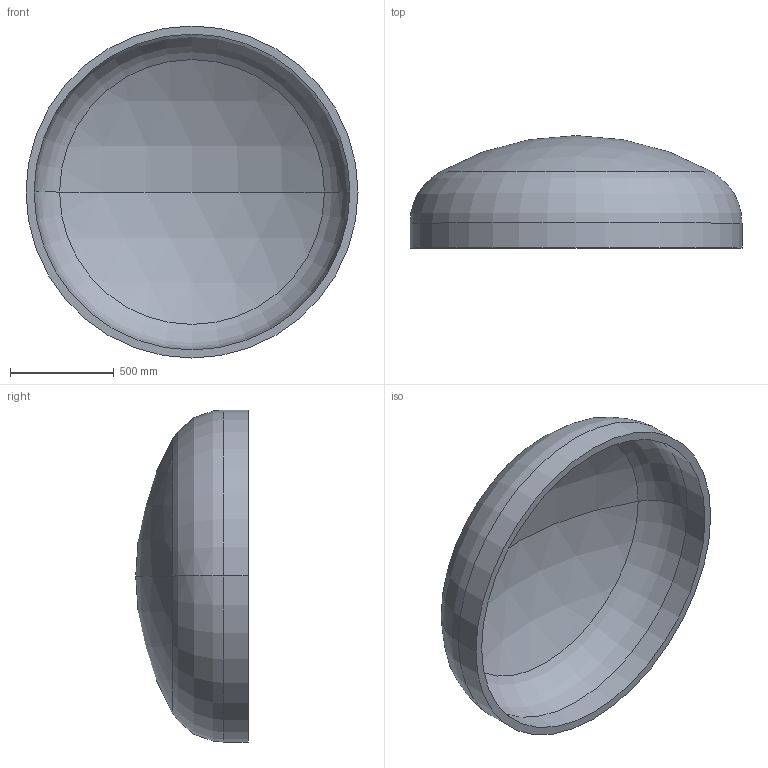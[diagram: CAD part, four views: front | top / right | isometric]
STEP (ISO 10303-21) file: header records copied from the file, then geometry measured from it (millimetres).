
FILE_DESCRIPTION (( 'STEP AP203' ), '1' );
FILE_NAME ('DIN 28013 Korbbogenform_-_Boden DIN 28013 - 1600 x 120 - I - s=39.step', '2016-07-01T11:15:16', ( '' ), ( '' ), 'SwSTEP 2.0', 'SolidWorks 2013', '' );
FILE_SCHEMA (( 'CONFIG_CONTROL_DESIGN' ));
Length unit declared in the file: millimetre
Products named in the file (1): DIN 28013 Korbbogenform_-_Boden DIN 28013 - 1600 x 120 - I - s=39
Bounding box: 1600 x 541.8 x 1600 mm (x, y, z)
Volume: 128015243.5 mm3; surface area: 6759324.9 mm2
Topology: 1 solids, 1 shells, 13 faces, 24 edges, 14 vertices
Faces by surface type: torus 4, cylinder 4, sphere 4, plane 1
Entity records: 407 total; most frequent: DIRECTION 72, CARTESIAN_POINT 52, ORIENTED_EDGE 48, AXIS2_PLACEMENT_3D 34, EDGE_CURVE 24, CIRCLE 20, EDGE_LOOP 14, VERTEX_POINT 14
